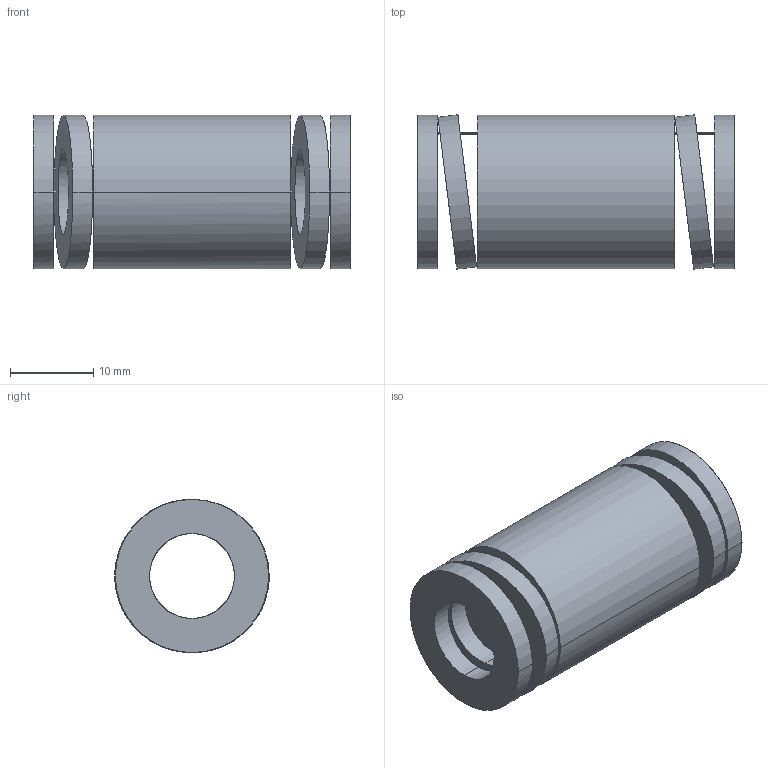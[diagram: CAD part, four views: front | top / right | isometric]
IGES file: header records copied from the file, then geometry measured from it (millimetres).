
Start section: START RECORD GO HERE.
Global section: file name: 392-B20-038.igs; native system: DASSAULT SYSTEMES CATIA V5 R20 - www.3ds.com; preprocessor: CATIA Version 5 Release 20 ; author: Utente; organization: NB04-ASUS; date: 20210812.155839; units: millimetre
Bounding box: 38 x 18.56 x 18.4 mm (x, y, z)
Surface area: 4836.6 mm2 (no closed solid volume)
Topology: 0 solids, 0 shells, 38 faces, 184 edges, 184 vertices
Faces by surface type: revolution 28, plane 10
